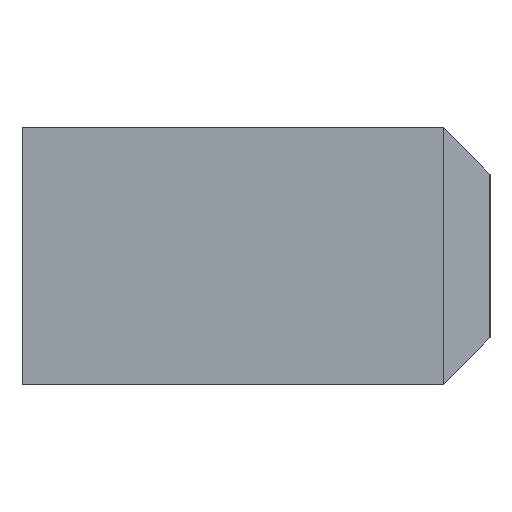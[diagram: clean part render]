
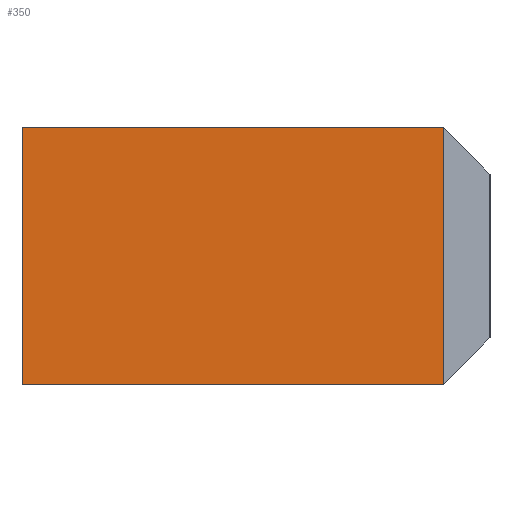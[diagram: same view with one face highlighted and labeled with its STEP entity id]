
A CAD part, left-side view. The second image highlights one B-rep face of the part: STEP entity #350.
In plain terms, the highlighted planar face has unit normal (-1, 0, 0).
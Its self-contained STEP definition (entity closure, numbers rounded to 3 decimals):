
#57=CARTESIAN_POINT('Line Origine',(-62.5,40.,0.)) ;
#61=CARTESIAN_POINT('Vertex',(-62.5,40.,-11.)) ;
#63=CARTESIAN_POINT('Vertex',(-62.5,40.,11.)) ;
#320=CARTESIAN_POINT('Axis2P3D Location',(-62.5,0.,0.)) ;
#325=CARTESIAN_POINT('Line Origine',(-62.5,4.,0.)) ;
#329=CARTESIAN_POINT('Vertex',(-62.5,4.,11.)) ;
#331=CARTESIAN_POINT('Vertex',(-62.5,4.,-11.)) ;
#334=CARTESIAN_POINT('Line Origine',(-62.5,22.,11.)) ;
#339=CARTESIAN_POINT('Line Origine',(-62.5,22.,-11.)) ;
#58=DIRECTION('Vector Direction',(0.,0.,1.)) ;
#321=DIRECTION('Axis2P3D Direction',(1.,0.,0.)) ;
#322=DIRECTION('Axis2P3D XDirection',(0.,0.,-1.)) ;
#326=DIRECTION('Vector Direction',(0.,0.,-1.)) ;
#335=DIRECTION('Vector Direction',(0.,-1.,0.)) ;
#340=DIRECTION('Vector Direction',(0.,1.,0.)) ;
#323=AXIS2_PLACEMENT_3D('Plane Axis2P3D',#320,#321,#322) ;
#345=ORIENTED_EDGE('',*,*,#333,.F.) ;
#346=ORIENTED_EDGE('',*,*,#338,.F.) ;
#347=ORIENTED_EDGE('',*,*,#65,.F.) ;
#348=ORIENTED_EDGE('',*,*,#343,.F.) ;
#59=VECTOR('Line Direction',#58,1.) ;
#327=VECTOR('Line Direction',#326,1.) ;
#336=VECTOR('Line Direction',#335,1.) ;
#341=VECTOR('Line Direction',#340,1.) ;
#350=ADVANCED_FACE('761-040125',(#349),#324,.F.) ;
#65=EDGE_CURVE('',#62,#64,#60,.T.) ;
#333=EDGE_CURVE('',#330,#332,#328,.T.) ;
#338=EDGE_CURVE('',#64,#330,#337,.T.) ;
#343=EDGE_CURVE('',#332,#62,#342,.T.) ;
#344=EDGE_LOOP('',(#345,#346,#347,#348)) ;
#349=FACE_OUTER_BOUND('',#344,.T.) ;
#60=LINE('Line',#57,#59) ;
#328=LINE('Line',#325,#327) ;
#337=LINE('Line',#334,#336) ;
#342=LINE('Line',#339,#341) ;
#324=PLANE('Plane',#323) ;
#62=VERTEX_POINT('',#61) ;
#64=VERTEX_POINT('',#63) ;
#330=VERTEX_POINT('',#329) ;
#332=VERTEX_POINT('',#331) ;
